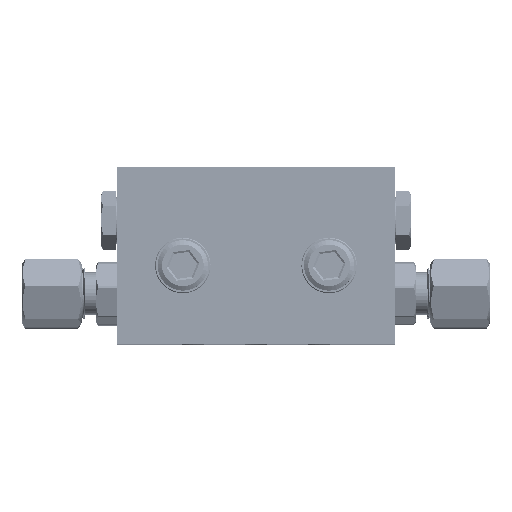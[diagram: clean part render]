
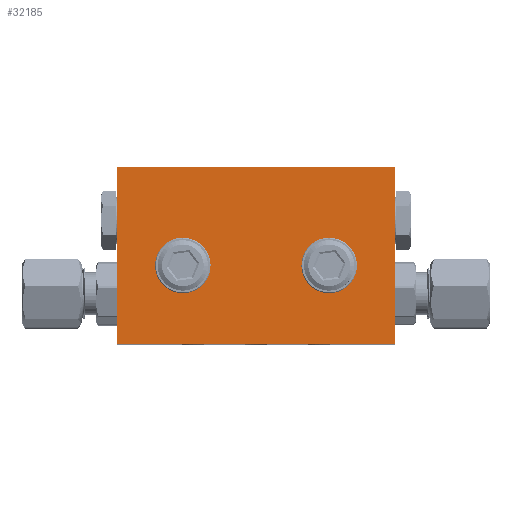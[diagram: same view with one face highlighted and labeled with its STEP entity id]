
A CAD part, top view. The second image highlights one B-rep face of the part: STEP entity #32185.
In plain terms, the highlighted planar face has unit normal (0, 0, 1) as drawn and (0, 0, -1) by its records, which use the part's own axes.
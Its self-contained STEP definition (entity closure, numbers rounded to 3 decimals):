
#101 = VERTEX_POINT ( 'NONE', #21469 ) ;
#1024 = CARTESIAN_POINT ( 'NONE',  ( -11.4, -15.5, -4.85 ) ) ;
#1553 = DIRECTION ( 'NONE',  ( -1., 0., 0. ) ) ;
#3541 = VERTEX_POINT ( 'NONE', #32387 ) ;
#4407 = AXIS2_PLACEMENT_3D ( 'NONE', #43606, #29370, #18877 ) ;
#4596 = DIRECTION ( 'NONE',  ( 0., 0., -1. ) ) ;
#4630 = FACE_OUTER_BOUND ( 'NONE', #10686, .T. ) ;
#4771 = ORIENTED_EDGE ( 'NONE', *, *, #7803, .F. ) ;
#5144 = CARTESIAN_POINT ( 'NONE',  ( -27.5, 0., -4.85 ) ) ;
#6631 = AXIS2_PLACEMENT_3D ( 'NONE', #14936, #8699, #1553 ) ;
#7300 = CIRCLE ( 'NONE', #6631, 3.1 ) ;
#7803 = EDGE_CURVE ( 'NONE', #17750, #101, #13711, .T. ) ;
#8699 = DIRECTION ( 'NONE',  ( 0., 0., -1. ) ) ;
#8818 = CARTESIAN_POINT ( 'NONE',  ( 0., -35., -4.85 ) ) ;
#8986 = EDGE_CURVE ( 'NONE', #101, #3541, #22481, .T. ) ;
#9388 = EDGE_LOOP ( 'NONE', ( #23791 ) ) ;
#9423 = DIRECTION ( 'NONE',  ( 0., 1., 0. ) ) ;
#9525 = VECTOR ( 'NONE', #36003, 1000. ) ;
#10686 = EDGE_LOOP ( 'NONE', ( #14083, #35960, #4771, #28295 ) ) ;
#11925 = DIRECTION ( 'NONE',  ( 1., 0., 0. ) ) ;
#11965 = PLANE ( 'NONE',  #4407 ) ;
#13430 = CARTESIAN_POINT ( 'NONE',  ( 11.4, -15.5, -4.85 ) ) ;
#13711 = LINE ( 'NONE', #41103, #29861 ) ;
#14083 = ORIENTED_EDGE ( 'NONE', *, *, #33212, .F. ) ;
#14936 = CARTESIAN_POINT ( 'NONE',  ( 14.5, -15.5, -4.85 ) ) ;
#15270 = CIRCLE ( 'NONE', #36640, 3.1 ) ;
#15852 = DIRECTION ( 'NONE',  ( 0., -1., 0. ) ) ;
#17471 = DIRECTION ( 'NONE',  ( -1., 0., 0. ) ) ;
#17750 = VERTEX_POINT ( 'NONE', #24777 ) ;
#18877 = DIRECTION ( 'NONE',  ( 1., 0., 0. ) ) ;
#21342 = EDGE_CURVE ( 'NONE', #43685, #43685, #7300, .T. ) ;
#21469 = CARTESIAN_POINT ( 'NONE',  ( -27.5, 0., -4.85 ) ) ;
#21973 = FACE_BOUND ( 'NONE', #9388, .T. ) ;
#22481 = LINE ( 'NONE', #5144, #41280 ) ;
#22570 = LINE ( 'NONE', #8818, #9525 ) ;
#23738 = VERTEX_POINT ( 'NONE', #1024 ) ;
#23791 = ORIENTED_EDGE ( 'NONE', *, *, #21342, .F. ) ;
#24777 = CARTESIAN_POINT ( 'NONE',  ( 27.5, 0., -4.85 ) ) ;
#24863 = EDGE_CURVE ( 'NONE', #39892, #17750, #43897, .T. ) ;
#26975 = CARTESIAN_POINT ( 'NONE',  ( 27.5, 0., -4.85 ) ) ;
#27811 = EDGE_LOOP ( 'NONE', ( #38691 ) ) ;
#28219 = CARTESIAN_POINT ( 'NONE',  ( -14.5, -15.5, -4.85 ) ) ;
#28295 = ORIENTED_EDGE ( 'NONE', *, *, #24863, .F. ) ;
#29370 = DIRECTION ( 'NONE',  ( 0., 0., 1. ) ) ;
#29861 = VECTOR ( 'NONE', #17471, 1000. ) ;
#32185 = ADVANCED_FACE ( 'NONE', ( #35173, #21973, #4630 ), #11965, .F. ) ;
#32387 = CARTESIAN_POINT ( 'NONE',  ( -27.5, -35., -4.85 ) ) ;
#33212 = EDGE_CURVE ( 'NONE', #3541, #39892, #22570, .T. ) ;
#35173 = FACE_BOUND ( 'NONE', #27811, .T. ) ;
#35960 = ORIENTED_EDGE ( 'NONE', *, *, #8986, .F. ) ;
#36003 = DIRECTION ( 'NONE',  ( 1., 0., 0. ) ) ;
#36640 = AXIS2_PLACEMENT_3D ( 'NONE', #28219, #4596, #11925 ) ;
#38691 = ORIENTED_EDGE ( 'NONE', *, *, #41321, .F. ) ;
#39892 = VERTEX_POINT ( 'NONE', #40041 ) ;
#40041 = CARTESIAN_POINT ( 'NONE',  ( 27.5, -35., -4.85 ) ) ;
#41103 = CARTESIAN_POINT ( 'NONE',  ( 0., 0., -4.85 ) ) ;
#41280 = VECTOR ( 'NONE', #15852, 1000. ) ;
#41321 = EDGE_CURVE ( 'NONE', #23738, #23738, #15270, .T. ) ;
#43606 = CARTESIAN_POINT ( 'NONE',  ( 0., 0., -4.85 ) ) ;
#43685 = VERTEX_POINT ( 'NONE', #13430 ) ;
#43866 = VECTOR ( 'NONE', #9423, 1000. ) ;
#43897 = LINE ( 'NONE', #26975, #43866 ) ;
